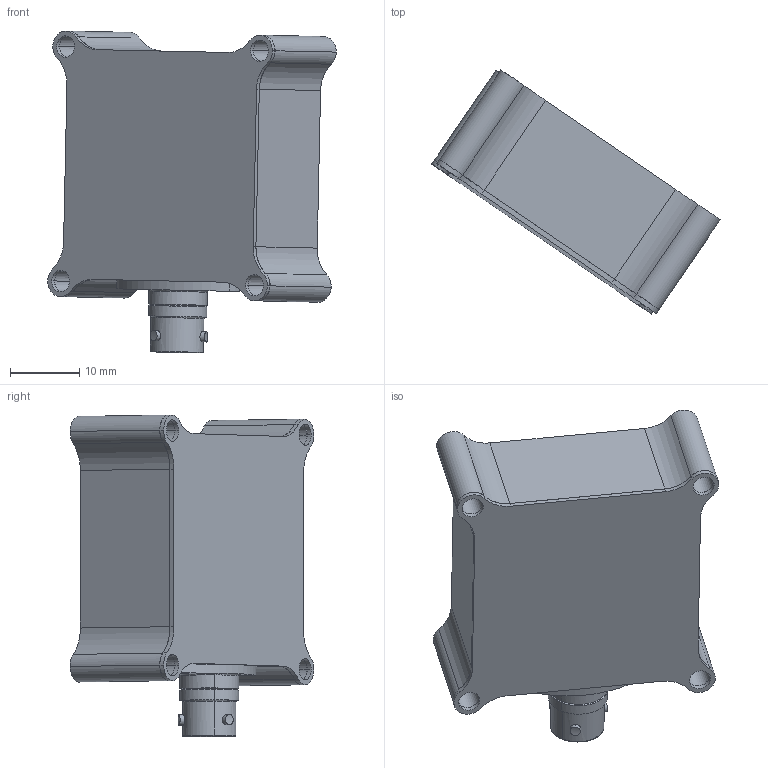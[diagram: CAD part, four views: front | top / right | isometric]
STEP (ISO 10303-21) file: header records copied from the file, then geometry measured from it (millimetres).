
FILE_DESCRIPTION(('CATIA V5 STEP Exchange','CAx-IF Rec.Pracs.--- Model Styling and Organization---1.2---2011-12-15'),'2;1');
FILE_NAME('Y:\Entwicklungsprojekte\Sensorik\03_Hardware\03_Sensoren\Datenbank\Acceleration_Sensors\F02U V02 007-01\Mechanik\F02U V02 007-01_AllCATPart.stp','2014-09-30T10:16:09+00:00',('none'),('none'),'CATIA Version 5-6 Release 2012 SP4 HF63','CATIA V5 STEP AP214','none');
FILE_SCHEMA(('AUTOMOTIVE_DESIGN { 1 0 10303 214 1 1 1 1 }'));
Length unit declared in the file: millimetre
Products named in the file (1): F02U V02 007-01_AllCATPart
Bounding box: 41.7 x 35.22 x 46.53 mm (x, y, z)
Volume: 8964.9 mm3; surface area: 14868.1 mm2
Topology: 4 solids, 4 shells, 256 faces, 1181 edges, 953 vertices
Faces by surface type: cylinder 133, plane 97, sphere 10, revolution 8, bspline 8
Entity records: 12632 total; most frequent: CARTESIAN_POINT 4219, ORIENTED_EDGE 2330, EDGE_CURVE 1165, VERTEX_POINT 944, DIRECTION 936, B_SPLINE_CURVE_WITH_KNOTS 597, AXIS2_PLACEMENT_3D 410, VECTOR 324
